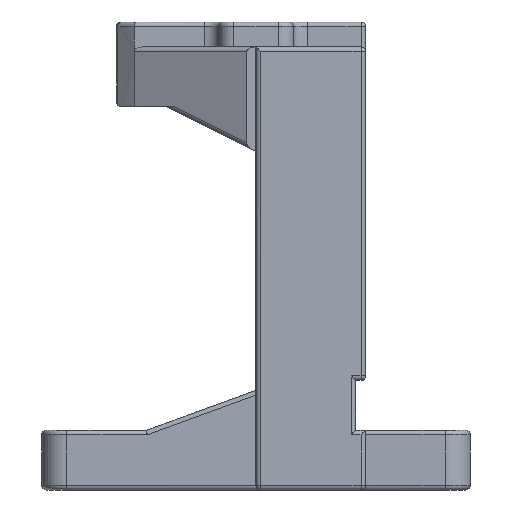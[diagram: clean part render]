
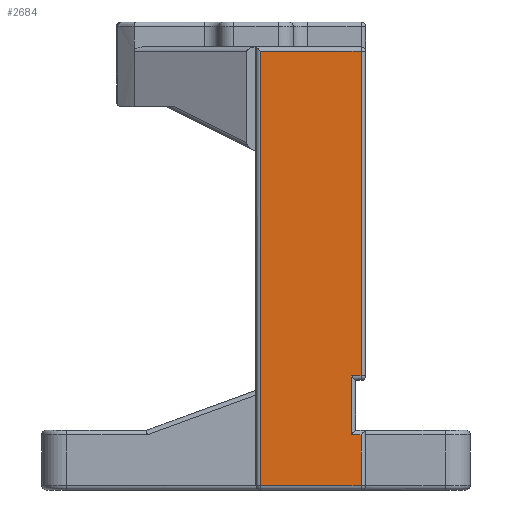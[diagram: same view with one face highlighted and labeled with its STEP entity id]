
A CAD part, left-side view. The second image highlights one B-rep face of the part: STEP entity #2684.
In plain terms, the highlighted planar face has unit normal (-1, 0, 0).
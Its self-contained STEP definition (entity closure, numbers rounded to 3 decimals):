
#5 = VECTOR ( 'NONE', #6015, 1000. ) ;
#190 = LINE ( 'NONE', #5463, #5 ) ;
#198 = VERTEX_POINT ( 'NONE', #3338 ) ;
#312 = VECTOR ( 'NONE', #5707, 1000. ) ;
#384 = LINE ( 'NONE', #4892, #1504 ) ;
#497 = CARTESIAN_POINT ( 'NONE',  ( -44., -21.1, 82.1 ) ) ;
#625 = LINE ( 'NONE', #4447, #4890 ) ;
#710 = DIRECTION ( 'NONE',  ( 1., 0., 0. ) ) ;
#934 = LINE ( 'NONE', #5028, #6658 ) ;
#1003 = DIRECTION ( 'NONE',  ( 0., 0., 1. ) ) ;
#1101 = CARTESIAN_POINT ( 'NONE',  ( -44., -19.1, 16.9 ) ) ;
#1112 = DIRECTION ( 'NONE',  ( 0., -1., 0. ) ) ;
#1115 = DIRECTION ( 'NONE',  ( 0., 0., 1. ) ) ;
#1504 = VECTOR ( 'NONE', #1003, 1000. ) ;
#1522 = EDGE_CURVE ( 'NONE', #6329, #6632, #2738, .T. ) ;
#1561 = EDGE_CURVE ( 'NONE', #5061, #2269, #934, .T. ) ;
#1796 = CARTESIAN_POINT ( 'NONE',  ( -44., -0.9, 83. ) ) ;
#1936 = ORIENTED_EDGE ( 'NONE', *, *, #1522, .T. ) ;
#1953 = CARTESIAN_POINT ( 'NONE',  ( -44., -20., 5.1 ) ) ;
#2010 = DIRECTION ( 'NONE',  ( 0., -1., 0. ) ) ;
#2269 = VERTEX_POINT ( 'NONE', #2840 ) ;
#2511 = DIRECTION ( 'NONE',  ( 0., 1., 0. ) ) ;
#2628 = VERTEX_POINT ( 'NONE', #2858 ) ;
#2657 = EDGE_CURVE ( 'NONE', #2628, #198, #4758, .T. ) ;
#2684 = ADVANCED_FACE ( 'NONE', ( #4395 ), #2903, .F. ) ;
#2738 = LINE ( 'NONE', #3292, #4062 ) ;
#2795 = DIRECTION ( 'NONE',  ( 0., 0., 1. ) ) ;
#2840 = CARTESIAN_POINT ( 'NONE',  ( -44., -21.1, 5.1 ) ) ;
#2858 = CARTESIAN_POINT ( 'NONE',  ( -44., -0.9, 82.1 ) ) ;
#2903 = PLANE ( 'NONE',  #5945 ) ;
#3008 = CARTESIAN_POINT ( 'NONE',  ( -44., -19.1, 5.1 ) ) ;
#3292 = CARTESIAN_POINT ( 'NONE',  ( -44., -22., 16.9 ) ) ;
#3338 = CARTESIAN_POINT ( 'NONE',  ( -44., -0.9, -5.1 ) ) ;
#3715 = EDGE_CURVE ( 'NONE', #198, #5061, #6804, .T. ) ;
#4029 = EDGE_LOOP ( 'NONE', ( #6761, #6762, #7178, #1936, #5567, #4591, #5397, #6855 ) ) ;
#4047 = CARTESIAN_POINT ( 'NONE',  ( -44., -22., 83. ) ) ;
#4062 = VECTOR ( 'NONE', #1112, 1000. ) ;
#4156 = CARTESIAN_POINT ( 'NONE',  ( -44., -21.1, 16.9 ) ) ;
#4236 = LINE ( 'NONE', #1953, #6829 ) ;
#4395 = FACE_OUTER_BOUND ( 'NONE', #4029, .T. ) ;
#4447 = CARTESIAN_POINT ( 'NONE',  ( -44., -19.1, 83. ) ) ;
#4496 = EDGE_CURVE ( 'NONE', #5555, #6329, #625, .T. ) ;
#4591 = ORIENTED_EDGE ( 'NONE', *, *, #4815, .T. ) ;
#4612 = DIRECTION ( 'NONE',  ( 0., -1., 0. ) ) ;
#4758 = LINE ( 'NONE', #1796, #312 ) ;
#4815 = EDGE_CURVE ( 'NONE', #6841, #2628, #190, .T. ) ;
#4890 = VECTOR ( 'NONE', #1115, 1000. ) ;
#4892 = CARTESIAN_POINT ( 'NONE',  ( -44., -21.1, 83. ) ) ;
#5028 = CARTESIAN_POINT ( 'NONE',  ( -44., -21.1, 6. ) ) ;
#5061 = VERTEX_POINT ( 'NONE', #6281 ) ;
#5162 = EDGE_CURVE ( 'NONE', #2269, #5555, #4236, .T. ) ;
#5350 = CARTESIAN_POINT ( 'NONE',  ( -44., -22., -5.1 ) ) ;
#5351 = VECTOR ( 'NONE', #2010, 1000. ) ;
#5397 = ORIENTED_EDGE ( 'NONE', *, *, #2657, .T. ) ;
#5463 = CARTESIAN_POINT ( 'NONE',  ( -44., 0., 82.1 ) ) ;
#5555 = VERTEX_POINT ( 'NONE', #3008 ) ;
#5567 = ORIENTED_EDGE ( 'NONE', *, *, #6245, .T. ) ;
#5707 = DIRECTION ( 'NONE',  ( 0., 0., -1. ) ) ;
#5945 = AXIS2_PLACEMENT_3D ( 'NONE', #4047, #710, #4612 ) ;
#6015 = DIRECTION ( 'NONE',  ( 0., 1., 0. ) ) ;
#6245 = EDGE_CURVE ( 'NONE', #6632, #6841, #384, .T. ) ;
#6281 = CARTESIAN_POINT ( 'NONE',  ( -44., -21.1, -5.1 ) ) ;
#6329 = VERTEX_POINT ( 'NONE', #1101 ) ;
#6632 = VERTEX_POINT ( 'NONE', #4156 ) ;
#6658 = VECTOR ( 'NONE', #2795, 1000. ) ;
#6761 = ORIENTED_EDGE ( 'NONE', *, *, #1561, .T. ) ;
#6762 = ORIENTED_EDGE ( 'NONE', *, *, #5162, .T. ) ;
#6804 = LINE ( 'NONE', #5350, #5351 ) ;
#6829 = VECTOR ( 'NONE', #2511, 1000. ) ;
#6841 = VERTEX_POINT ( 'NONE', #497 ) ;
#6855 = ORIENTED_EDGE ( 'NONE', *, *, #3715, .T. ) ;
#7178 = ORIENTED_EDGE ( 'NONE', *, *, #4496, .T. ) ;
